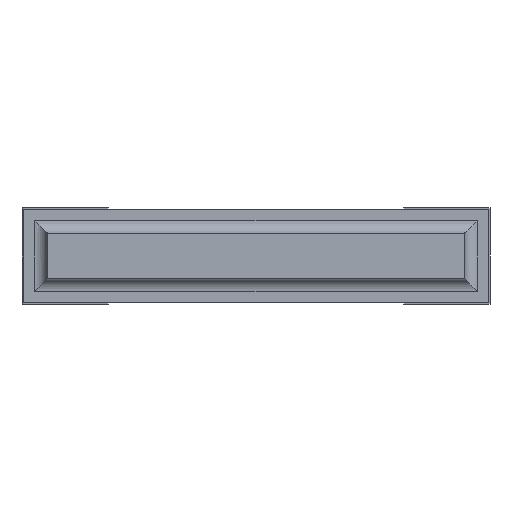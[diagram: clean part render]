
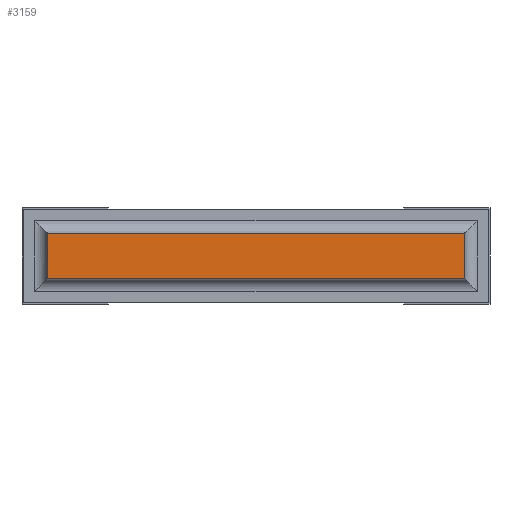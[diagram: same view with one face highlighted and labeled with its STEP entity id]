
A CAD part, front view. The second image highlights one B-rep face of the part: STEP entity #3159.
In plain terms, the highlighted planar face has unit normal (0, -1, 0).
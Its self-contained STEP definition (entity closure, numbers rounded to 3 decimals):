
#133=FACE_OUTER_BOUND('',#329,.T.);
#329=EDGE_LOOP('',(#2123,#2124,#2125,#2126));
#529=LINE('',#4507,#941);
#538=LINE('',#4535,#950);
#545=LINE('',#4552,#957);
#546=LINE('',#4554,#958);
#941=VECTOR('',#3619,10.);
#950=VECTOR('',#3644,10.);
#957=VECTOR('',#3661,10.);
#958=VECTOR('',#3664,10.);
#1353=VERTEX_POINT('',#4504);
#1354=VERTEX_POINT('',#4506);
#1365=VERTEX_POINT('',#4534);
#1370=VERTEX_POINT('',#4550);
#1641=EDGE_CURVE('',#1354,#1353,#529,.T.);
#1654=EDGE_CURVE('',#1354,#1365,#538,.T.);
#1663=EDGE_CURVE('',#1370,#1353,#545,.T.);
#1664=EDGE_CURVE('',#1365,#1370,#546,.T.);
#2123=ORIENTED_EDGE('',*,*,#1663,.F.);
#2124=ORIENTED_EDGE('',*,*,#1664,.F.);
#2125=ORIENTED_EDGE('',*,*,#1654,.F.);
#2126=ORIENTED_EDGE('',*,*,#1641,.T.);
#2999=PLANE('',#3391);
#3159=ADVANCED_FACE('',(#133),#2999,.T.);
#3391=AXIS2_PLACEMENT_3D('',#4553,#3662,#3663);
#3619=DIRECTION('',(0.,0.,-1.));
#3644=DIRECTION('',(1.,0.,0.));
#3661=DIRECTION('',(-1.,0.,0.));
#3662=DIRECTION('center_axis',(0.,-1.,0.));
#3663=DIRECTION('ref_axis',(0.,0.,-1.));
#3664=DIRECTION('',(0.,0.,-1.));
#4504=CARTESIAN_POINT('',(0.1,0.,0.16));
#4506=CARTESIAN_POINT('',(0.1,0.,0.34));
#4507=CARTESIAN_POINT('',(0.1,0.,0.34));
#4534=CARTESIAN_POINT('',(1.75,0.,0.34));
#4535=CARTESIAN_POINT('',(0.1,0.,0.34));
#4550=CARTESIAN_POINT('',(1.75,0.,0.16));
#4552=CARTESIAN_POINT('',(1.75,0.,0.16));
#4553=CARTESIAN_POINT('Origin',(1.75,0.,0.25));
#4554=CARTESIAN_POINT('',(1.75,0.,0.34));
